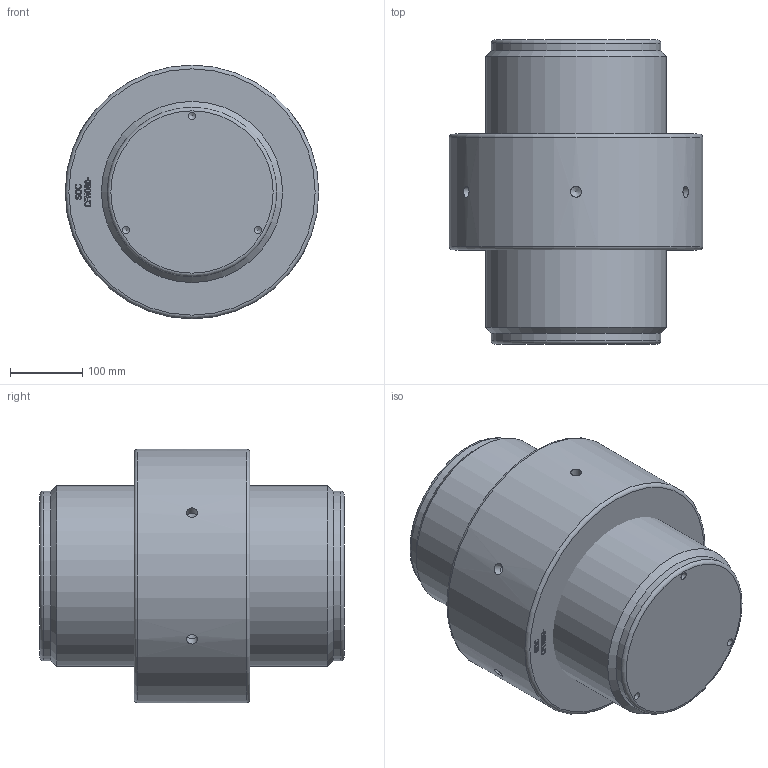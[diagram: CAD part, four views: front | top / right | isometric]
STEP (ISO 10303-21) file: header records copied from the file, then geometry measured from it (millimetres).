
FILE_DESCRIPTION(/* description */ (''),/* implementation_level */ '2;1');
FILE_NAME(/* name */ 'F:\Clienti LS\Redaelli\CYT\CYT\ARRNGEMENT\CYT080 61 061 0.stp',/* time_stamp */ '2021-05-09T08:50:26+02:00',/* author */ ('ranca'),/* organization */ (''),/* preprocessor_version */ 'ST-DEVELOPER v16.13',/* originating_system */ 'Autodesk Inventor 2018',/* authorisation */ '');
FILE_SCHEMA (('AUTOMOTIVE_DESIGN { 1 0 10303 214 3 1 1 }'));
Length unit declared in the file: millimetre
Products named in the file (3): CYT012-61-061-0; CYT012-61-061-0_1; CYT012-61-061-0_DADO
Assembly tree (2 placements, depth 2):
  CYT012-61-061-0
    CYT012-61-061-0_1
    CYT012-61-061-0_DADO
Bounding box: 350 x 420 x 350 mm (x, y, z)
Volume: 28415082.5 mm3; surface area: 816585.2 mm2
Topology: 2 solids, 2 shells, 350 faces, 944 edges, 628 vertices
Faces by surface type: bspline 210, plane 111, cylinder 14, cone 11, torus 4
Full cylindrical faces by diameter (mm): 10.106 x3, 15 x6, 234 x2, 241.34 x1, 250 x1, 350 x1
Entity records: 12026 total; most frequent: CARTESIAN_POINT 4806, ORIENTED_EDGE 1798, EDGE_CURVE 899, DIRECTION 783, VERTEX_POINT 612, LINE 441, VECTOR 441, B_SPLINE_CURVE_WITH_KNOTS 432
